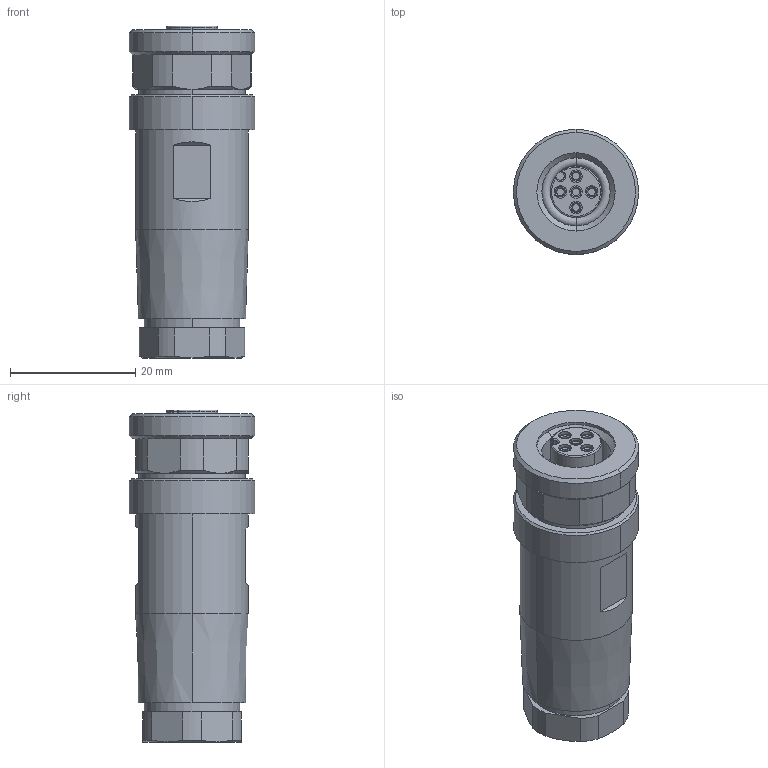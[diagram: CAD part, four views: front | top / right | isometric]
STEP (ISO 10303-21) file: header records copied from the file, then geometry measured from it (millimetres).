
FILE_DESCRIPTION((''),'2;1');
FILE_NAME('C-T4110002051-000','2016-06-02T',('workeradm'),('Tyco Electronics Ltd.'),'CREO PARAMETRIC BY PTC INC, 2015200','CREO PARAMETRIC BY PTC INC, 2015200','');
FILE_SCHEMA(('AUTOMOTIVE_DESIGN { 1 0 10303 214 1 1 1 1 }'));
Length unit declared in the file: millimetre
Products named in the file (1): C-T4110002051-000
Bounding box: 20 x 20 x 53 mm (x, y, z)
Volume: 12912.4 mm3; surface area: 4393.4 mm2
Topology: 1 solids, 1 shells, 150 faces, 318 edges, 190 vertices
Faces by surface type: cylinder 59, plane 47, cone 36, torus 6, sphere 2
Entity records: 4214 total; most frequent: CARTESIAN_POINT 864, DIRECTION 758, ORIENTED_EDGE 636, AXIS2_PLACEMENT_3D 318, EDGE_CURVE 318, VERTEX_POINT 190, EDGE_LOOP 170, CIRCLE 168
